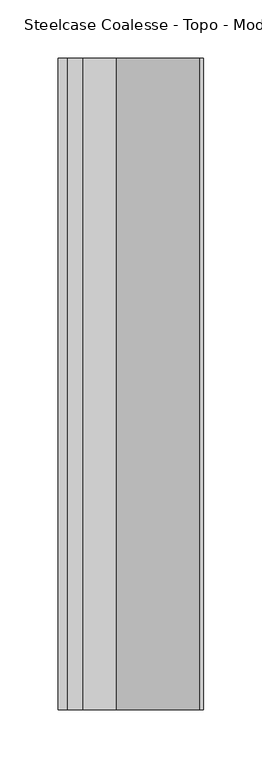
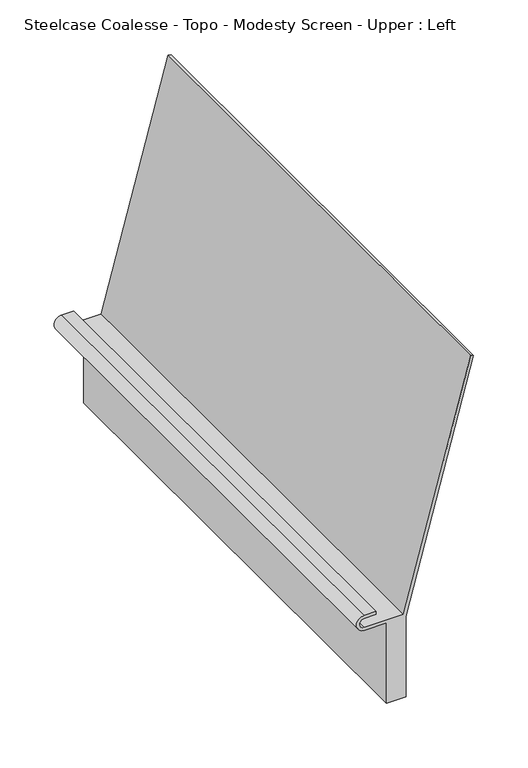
"""IFC4 building model written with IfcOpenShell, lengths in millimetres: furniture geometry, Steelcase Coalesse - Topo - Modesty Screen - Upper : Left."""

from ifc_helpers import new_model, si_unit, frame, origin, place, context, project, spatial, polyline, circle_curve, source, transform, mapped, element, save
from ifc_brep_helpers import plane_surface, cylinder_surface, revolved_surface, advanced_brep


def steelcase_coalesse_topo_modesty_screen_upper_left_3f92186f(model_context):
    return source(origin(), model_context, "Body", "AdvancedBrep", [
        advanced_brep(
        [(20.9527908, -558.8, 706.6280165), (20.9527908, -558.8, 797.5599661), (93.057692, -558.8, 1066.6595289), (89.9910187, -558.8, 1067.4812811), (18.5163116, -558.8, 800.7349903), (-23.497403, -558.8, 800.7349903), (-23.4834028, -558.8, 810.8949806), (-10.7975967, -558.8, 810.8949806), (-10.7975967, -558.8, 814.0700048), (-23.497403, -558.8, 814.0700048), (-23.4974344, -558.8, 797.56), (-0.0023254, -558.8, 797.5599661), (-0.0023254, -558.8, 706.6280165), (20.9527908, 0.0, 706.6280165), (-0.0023254, 0.0, 706.6280165), (-0.0023254, 0.0, 797.5599661), (-23.497403, 0.0, 797.5599661), (-23.4974344, 0.0, 814.07), (-10.7975967, 0.0, 814.0700048), (-10.7975967, 0.0, 810.8949806), (-23.4834028, 0.0, 810.8949806), (-23.4974344, 0.0, 800.735), (18.5163116, 0.0, 800.7349903), (89.9910187, 0.0, 1067.4812811), (93.057692, 0.0, 1066.6595289), (20.9527908, 0.0, 797.5599661)],
        [
            (0, 1),
            (1, 2),
            (2, 3),
            (3, 4),
            (4, 5),
            (5, 6, circle_curve(frame((-23.4974344, -558.8, 805.815), z_axis=(0.0, 1.0, 0.0), x_axis=(0.0, 0.0, 1.0)), 5.08)),
            (6, 7),
            (7, 8),
            (8, 9),
            (9, 10, circle_curve(frame((-23.4974344, -558.8, 805.815), z_axis=(0.0, -1.0, 0.0), x_axis=(0.0, 0.0, 1.0)), 8.255)),
            (10, 11),
            (11, 12),
            (12, 0),
            (13, 14),
            (14, 15),
            (15, 16),
            (16, 17, circle_curve(frame((-23.4974344, 0.0, 805.815), z_axis=(0.0, 1.0, 0.0), x_axis=(0.0, 0.0, 1.0)), 8.255)),
            (17, 18),
            (18, 19),
            (19, 20),
            (20, 21, circle_curve(frame((-23.4974344, 0.0, 805.815), z_axis=(0.0, -1.0, 0.0), x_axis=(0.0, 0.0, 1.0)), 5.08)),
            (21, 22),
            (22, 23),
            (23, 24),
            (24, 25),
            (25, 13),
            (0, 13),
            (25, 1),
            (24, 2),
            (23, 3),
            (22, 4),
            (21, 5),
            (20, 6),
            (19, 7),
            (18, 8),
            (17, 9),
            (16, 10),
            (15, 11),
            (14, 12),
        ],
        [
            plane_surface(frame((20.9527908, -558.8, 797.5599661), z_axis=(0.0, -1.0, 0.0), x_axis=(0.0, 0.0, 1.0))),
            plane_surface(frame((20.9527908, 0.0, 797.5599661), z_axis=(0.0, 1.0, 0.0), x_axis=(0.0, 0.0, -1.0))),
            plane_surface(frame((20.9527908, -558.8, 706.6280165), z_axis=(1.0, 0.0, 0.0), x_axis=(0.0, 1.0, 0.0))),
            plane_surface(frame((20.9527908, -558.8, 797.5599661), z_axis=(0.9659259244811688, 0.0, -0.25881867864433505), x_axis=(0.0, 1.0, 0.0))),
            plane_surface(frame((93.057692, -558.8, 1066.6595289), z_axis=(0.25883066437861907, 0.0, 0.9659227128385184), x_axis=(0.0, 1.0, 0.0))),
            plane_surface(frame((89.9910187, -558.8, 1067.4812811), z_axis=(-0.9659255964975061, 0.0, 0.25881990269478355), x_axis=(0.0, 1.0, 0.0))),
            plane_surface(frame((18.5163116, -558.8, 800.7349903), z_axis=(0.0, 0.0, 1.0), x_axis=(0.0, 1.0, 0.0))),
            revolved_surface(polyline([(-23.4974344, 0.0, 810.8950000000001), (-23.4974344, -558.8, 810.8950000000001)]), (-23.4974344, 0.0, 805.815), (0.0, 1.0, 0.0)),
            plane_surface(frame((-23.4834028, -558.8, 810.8949806), z_axis=(0.0, 0.0, -1.0), x_axis=(0.0, 1.0, 0.0))),
            plane_surface(frame((-10.7975967, -558.8, 810.8949806), z_axis=(1.0, 0.0, 0.0), x_axis=(0.0, 1.0, 0.0))),
            plane_surface(frame((-10.7975967, -558.8, 814.0700048), z_axis=(0.0, 0.0, 1.0), x_axis=(0.0, 1.0, 0.0))),
            cylinder_surface(frame((-23.4974344, 0.0, 805.815), z_axis=(0.0, -1.0, 0.0), x_axis=(0.0, 0.0, 1.0)), 8.255),
            plane_surface(frame((-23.497403, -558.8, 797.5599661), z_axis=(0.0, 0.0, -1.0), x_axis=(0.0, 1.0, 0.0))),
            plane_surface(frame((-0.0023254, -558.8, 797.5599661), z_axis=(-1.0, 0.0, 0.0), x_axis=(0.0, 1.0, 0.0))),
            plane_surface(frame((-0.0023254, -558.8, 706.6280165), z_axis=(0.0, 0.0, -1.0), x_axis=(0.0, 1.0, 0.0))),
        ],
        [
            (0, [[1, 2, 3, 4, 5, 6, 7, 8, 9, 10, 11, 12, 13]]),
            (1, [[14, 15, 16, 17, 18, 19, 20, 21, 22, 23, 24, 25, 26]]),
            (2, [[-1, 27, -26, 28]]),
            (3, [[-2, -28, -25, 29]]),
            (4, [[-3, -29, -24, 30]]),
            (5, [[-4, -30, -23, 31]]),
            (6, [[-5, -31, -22, 32]]),
            (7, [[-6, -32, -21, 33]]),
            (8, [[-7, -33, -20, 34]]),
            (9, [[-8, -34, -19, 35]]),
            (10, [[-9, -35, -18, 36]]),
            (11, [[-10, -36, -17, 37]]),
            (12, [[-11, -37, -16, 38]]),
            (13, [[-12, -38, -15, 39]]),
            (14, [[-13, -39, -14, -27]]),
        ],
    ),
    ])


if __name__ == "__main__":
    model = new_model("IFC4")
    model_context = context("Model", 3, world=origin())
    ifc_project = project(units=[si_unit("LENGTHUNIT", "METRE", prefix="MILLI")], contexts=[model_context])
    site = spatial("IfcSite", under=ifc_project)
    building = spatial("IfcBuilding", under=site)
    placement = place(None, origin())
    steelcase_coalesse_topo_modesty_screen_upper_left_shape = steelcase_coalesse_topo_modesty_screen_upper_left_3f92186f(model_context)
    element("IfcFurniture", 1, ObjectType="Steelcase Coalesse - Topo - Modesty Screen - Upper : Left", at=placement, inside=building, context=model_context, shape_type="MappedRepresentation", body=[
        mapped(steelcase_coalesse_topo_modesty_screen_upper_left_shape, transform((0.0, 0.0, 0.0), x_axis=(1.0, 0.0, 0.0), y_axis=(0.0, 1.0, 0.0), z_axis=(0.0, 0.0, 1.0))),
    ])
    save(model, "model.ifc")
